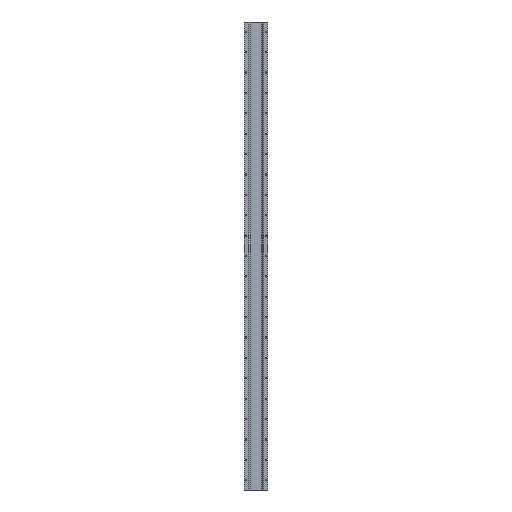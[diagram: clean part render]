
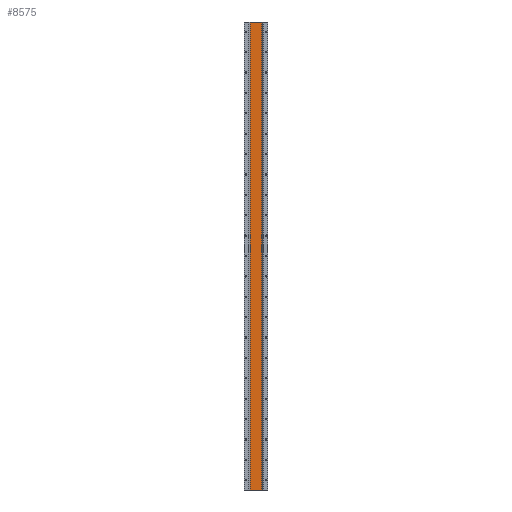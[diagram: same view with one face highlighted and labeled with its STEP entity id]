
A CAD part, front view. The second image highlights one B-rep face of the part: STEP entity #8575.
In plain terms, the highlighted planar face has unit normal (0, -1, 0).
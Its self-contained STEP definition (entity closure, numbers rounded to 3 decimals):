
#6667 = DIRECTION ( 'NONE',  ( 1., 0., 0. ) ) ;
#6668 = VECTOR ( 'NONE', #6667, 1000. ) ;
#6669 = CARTESIAN_POINT ( 'NONE',  ( 28.2, 13.5, -2296. ) ) ;
#6670 = LINE ( 'NONE', #6669, #6668 ) ;
#6671 = CARTESIAN_POINT ( 'NONE',  ( -28.2, 13.5, -2296. ) ) ;
#6672 = DIRECTION ( 'NONE',  ( 0., 0., 1. ) ) ;
#6673 = VECTOR ( 'NONE', #6672, 1000. ) ;
#6674 = CARTESIAN_POINT ( 'NONE',  ( -28.2, 13.5, -2296. ) ) ;
#6675 = LINE ( 'NONE', #6674, #6673 ) ;
#6676 = CARTESIAN_POINT ( 'NONE',  ( -28.2, 13.5, 0. ) ) ;
#6677 = DIRECTION ( 'NONE',  ( 1., 0., 0. ) ) ;
#6678 = VECTOR ( 'NONE', #6677, 1000. ) ;
#6679 = CARTESIAN_POINT ( 'NONE',  ( 28.2, 13.5, 0. ) ) ;
#6680 = LINE ( 'NONE', #6679, #6678 ) ;
#6681 = DIRECTION ( 'NONE',  ( 0., 0., -1. ) ) ;
#6682 = DIRECTION ( 'NONE',  ( 0., -1., 0. ) ) ;
#6683 = CARTESIAN_POINT ( 'NONE',  ( 28.2, 13.5, -2296. ) ) ;
#6684 = AXIS2_PLACEMENT_3D ( 'NONE', #6683, #6682, #6681 ) ;
#6685 = PLANE ( 'NONE',  #6684 ) ;
#6686 = FACE_OUTER_BOUND ( 'NONE', #8576, .T. ) ;
#6728 = CARTESIAN_POINT ( 'NONE',  ( 28.2, 13.5, -2296. ) ) ;
#6729 = DIRECTION ( 'NONE',  ( 0., 0., 1. ) ) ;
#6730 = VECTOR ( 'NONE', #6729, 1000. ) ;
#6731 = CARTESIAN_POINT ( 'NONE',  ( 28.2, 13.5, -2296. ) ) ;
#6732 = LINE ( 'NONE', #6731, #6730 ) ;
#6759 = CARTESIAN_POINT ( 'NONE',  ( 28.2, 13.5, 0. ) ) ;
#8553 = VERTEX_POINT ( 'NONE', #6759 ) ;
#8568 = EDGE_CURVE ( 'NONE', #8569, #8553, #6732, .T. ) ;
#8569 = VERTEX_POINT ( 'NONE', #6728 ) ;
#8575 = ADVANCED_FACE ( 'NONE', ( #6686 ), #6685, .T. ) ;
#8576 = EDGE_LOOP ( 'NONE', ( #8577, #8580, #8583, #8585 ) ) ;
#8577 = ORIENTED_EDGE ( 'NONE', *, *, #8578, .F. ) ;
#8578 = EDGE_CURVE ( 'NONE', #8579, #8553, #6680, .T. ) ;
#8579 = VERTEX_POINT ( 'NONE', #6676 ) ;
#8580 = ORIENTED_EDGE ( 'NONE', *, *, #8581, .F. ) ;
#8581 = EDGE_CURVE ( 'NONE', #8582, #8579, #6675, .T. ) ;
#8582 = VERTEX_POINT ( 'NONE', #6671 ) ;
#8583 = ORIENTED_EDGE ( 'NONE', *, *, #8584, .T. ) ;
#8584 = EDGE_CURVE ( 'NONE', #8582, #8569, #6670, .T. ) ;
#8585 = ORIENTED_EDGE ( 'NONE', *, *, #8568, .T. ) ;
